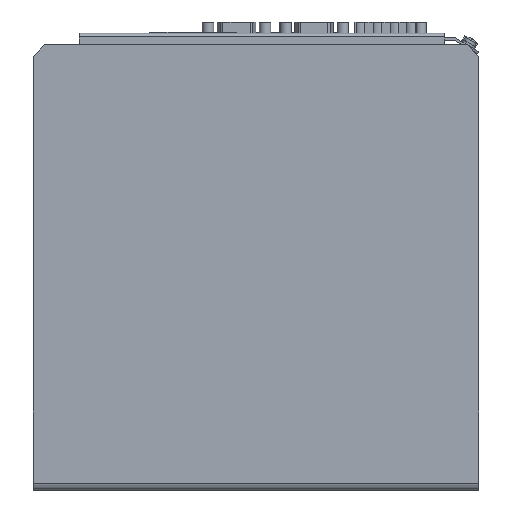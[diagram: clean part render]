
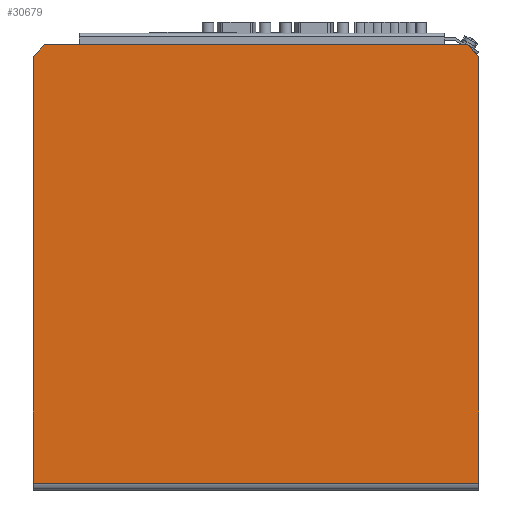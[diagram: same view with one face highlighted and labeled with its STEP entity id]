
A CAD part, left-side view. The second image highlights one B-rep face of the part: STEP entity #30679.
In plain terms, the highlighted planar face has unit normal (-1, 0, 0).
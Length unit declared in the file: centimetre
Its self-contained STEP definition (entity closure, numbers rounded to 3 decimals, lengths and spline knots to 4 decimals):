
#4830=VECTOR('',#36800,1.);
#4831=VECTOR('',#36802,1.);
#4832=VECTOR('',#36803,1.);
#4833=VECTOR('',#36804,1.);
#4834=VECTOR('',#36805,1.);
#4835=VECTOR('',#36806,1.);
#7555=LINE('',#50962,#4830);
#7556=LINE('',#50964,#4831);
#7557=LINE('',#50966,#4832);
#7558=LINE('',#50968,#4833);
#7559=LINE('',#50970,#4834);
#7560=LINE('',#50972,#4835);
#8531=PLANE('',#32138);
#11395=VERTEX_POINT('',#50956);
#11398=VERTEX_POINT('',#50961);
#11399=VERTEX_POINT('',#50965);
#11400=VERTEX_POINT('',#50967);
#11401=VERTEX_POINT('',#50969);
#11402=VERTEX_POINT('',#50971);
#16026=EDGE_CURVE('',#11398,#11395,#7555,.T.);
#16027=EDGE_CURVE('',#11398,#11399,#7556,.T.);
#16028=EDGE_CURVE('',#11399,#11400,#7557,.T.);
#16029=EDGE_CURVE('',#11400,#11401,#7558,.T.);
#16030=EDGE_CURVE('',#11401,#11402,#7559,.T.);
#16031=EDGE_CURVE('',#11395,#11402,#7560,.T.);
#24466=ORIENTED_EDGE('',*,*,#16026,.F.);
#24467=ORIENTED_EDGE('',*,*,#16027,.T.);
#24468=ORIENTED_EDGE('',*,*,#16028,.T.);
#24469=ORIENTED_EDGE('',*,*,#16029,.T.);
#24470=ORIENTED_EDGE('',*,*,#16030,.T.);
#24471=ORIENTED_EDGE('',*,*,#16031,.F.);
#26840=EDGE_LOOP('',(#24466,#24467,#24468,#24469,#24470,#24471));
#28939=FACE_BOUND('',#26840,.T.);
#30679=ADVANCED_FACE('',(#28939),#8531,.T.);
#32138=AXIS2_PLACEMENT_3D('',#50963,#36801,$);
#36800=DIRECTION('',(0.,1.,0.));
#36801=DIRECTION('',(-1.,0.,0.));
#36802=DIRECTION('',(0.,0.,1.));
#36803=DIRECTION('',(0.,0.707,0.707));
#36804=DIRECTION('',(0.,1.,0.));
#36805=DIRECTION('',(0.,0.707,-0.707));
#36806=DIRECTION('',(0.,0.,1.));
#50956=CARTESIAN_POINT('',(0.,19.5,0.3));
#50961=CARTESIAN_POINT('',(0.,0.,0.3));
#50962=CARTESIAN_POINT('',(0.,9.4584,0.3));
#50963=CARTESIAN_POINT('',(0.,9.75,0.));
#50964=CARTESIAN_POINT('',(0.,0.,0.));
#50965=CARTESIAN_POINT('',(0.,0.,19.));
#50966=CARTESIAN_POINT('',(0.,-2.1875,16.8125));
#50967=CARTESIAN_POINT('',(0.,0.5,19.5));
#50968=CARTESIAN_POINT('',(0.,9.7,19.5));
#50969=CARTESIAN_POINT('',(0.,19.,19.5));
#50970=CARTESIAN_POINT('',(0.,21.6875,16.8125));
#50971=CARTESIAN_POINT('',(0.,19.5,19.));
#50972=CARTESIAN_POINT('',(0.,19.5,0.));
